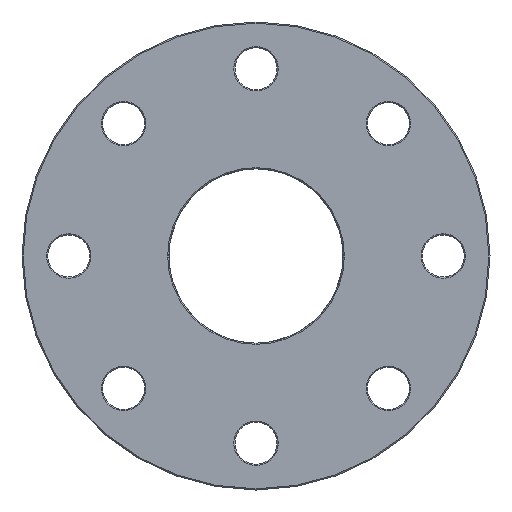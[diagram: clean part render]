
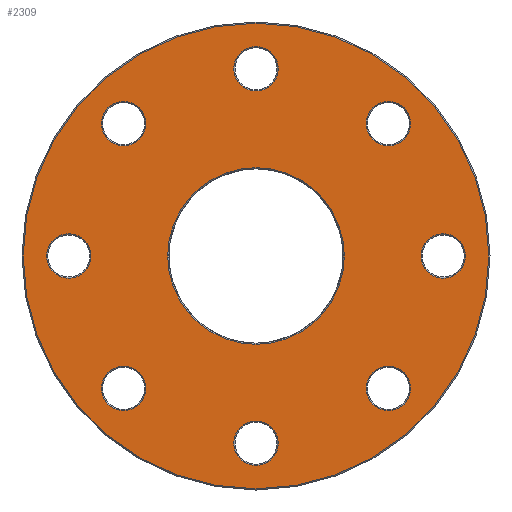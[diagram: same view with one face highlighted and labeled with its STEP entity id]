
A CAD part, front view. The second image highlights one B-rep face of the part: STEP entity #2309.
In plain terms, the highlighted planar face has unit normal (0, -1, 0).
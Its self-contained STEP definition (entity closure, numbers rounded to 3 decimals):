
#670=CARTESIAN_POINT('',(56.569,-2.192,56.569));
#671=DIRECTION('',(0.,1.,0.));
#672=DIRECTION('',(0.,0.,-1.));
#673=AXIS2_PLACEMENT_3D('',#670,#671,#672);
#678=CARTESIAN_POINT('',(56.569,-2.192,56.569));
#679=DIRECTION('',(0.,1.,0.));
#680=DIRECTION('',(0.,0.,1.));
#681=AXIS2_PLACEMENT_3D('',#678,#679,#680);
#686=CARTESIAN_POINT('',(80.,-2.192,0.));
#687=DIRECTION('',(0.,1.,0.));
#688=DIRECTION('',(-0.707,0.,-0.707));
#689=AXIS2_PLACEMENT_3D('',#686,#687,#688);
#694=CARTESIAN_POINT('',(80.,-2.192,0.));
#695=DIRECTION('',(0.,1.,0.));
#696=DIRECTION('',(0.707,0.,0.707));
#697=AXIS2_PLACEMENT_3D('',#694,#695,#696);
#702=CARTESIAN_POINT('',(56.569,-2.192,-56.569));
#703=DIRECTION('',(0.,1.,0.));
#704=DIRECTION('',(1.,0.,0.));
#705=AXIS2_PLACEMENT_3D('',#702,#703,#704);
#710=CARTESIAN_POINT('',(56.569,-2.192,-56.569));
#711=DIRECTION('',(0.,1.,0.));
#712=DIRECTION('',(-1.,0.,0.));
#713=AXIS2_PLACEMENT_3D('',#710,#711,#712);
#718=CARTESIAN_POINT('',(0.,-2.192,-80.));
#719=DIRECTION('',(0.,1.,0.));
#720=DIRECTION('',(0.707,0.,-0.707));
#721=AXIS2_PLACEMENT_3D('',#718,#719,#720);
#726=CARTESIAN_POINT('',(0.,-2.192,-80.));
#727=DIRECTION('',(0.,1.,0.));
#728=DIRECTION('',(-0.707,0.,0.707));
#729=AXIS2_PLACEMENT_3D('',#726,#727,#728);
#734=CARTESIAN_POINT('',(-56.569,-2.192,-56.569));
#735=DIRECTION('',(0.,1.,0.));
#736=DIRECTION('',(0.,0.,-1.));
#737=AXIS2_PLACEMENT_3D('',#734,#735,#736);
#742=CARTESIAN_POINT('',(-56.569,-2.192,-56.569));
#743=DIRECTION('',(0.,1.,0.));
#744=DIRECTION('',(0.,0.,1.));
#745=AXIS2_PLACEMENT_3D('',#742,#743,#744);
#750=CARTESIAN_POINT('',(-80.,-2.192,0.));
#751=DIRECTION('',(0.,1.,0.));
#752=DIRECTION('',(0.707,0.,0.707));
#753=AXIS2_PLACEMENT_3D('',#750,#751,#752);
#758=CARTESIAN_POINT('',(-80.,-2.192,0.));
#759=DIRECTION('',(0.,1.,0.));
#760=DIRECTION('',(-0.707,0.,-0.707));
#761=AXIS2_PLACEMENT_3D('',#758,#759,#760);
#766=CARTESIAN_POINT('',(-56.569,-2.192,56.569));
#767=DIRECTION('',(0.,1.,0.));
#768=DIRECTION('',(1.,0.,0.));
#769=AXIS2_PLACEMENT_3D('',#766,#767,#768);
#774=CARTESIAN_POINT('',(-56.569,-2.192,56.569));
#775=DIRECTION('',(0.,1.,0.));
#776=DIRECTION('',(-1.,0.,0.));
#777=AXIS2_PLACEMENT_3D('',#774,#775,#776);
#782=CARTESIAN_POINT('',(0.,-2.192,80.));
#783=DIRECTION('',(0.,1.,0.));
#784=DIRECTION('',(0.707,0.,-0.707));
#785=AXIS2_PLACEMENT_3D('',#782,#783,#784);
#790=CARTESIAN_POINT('',(0.,-2.192,80.));
#791=DIRECTION('',(0.,1.,0.));
#792=DIRECTION('',(-0.707,0.,0.707));
#793=AXIS2_PLACEMENT_3D('',#790,#791,#792);
#798=CARTESIAN_POINT('',(0.,-2.192,0.));
#799=DIRECTION('',(0.,-1.,0.));
#800=DIRECTION('',(-1.,0.,0.));
#801=AXIS2_PLACEMENT_3D('',#798,#799,#800);
#806=CARTESIAN_POINT('',(0.,-2.192,0.));
#807=DIRECTION('',(0.,-1.,0.));
#808=DIRECTION('',(1.,0.,0.));
#809=AXIS2_PLACEMENT_3D('',#806,#807,#808);
#814=CARTESIAN_POINT('',(0.,-2.192,0.));
#815=DIRECTION('',(0.,1.,0.));
#816=DIRECTION('',(-1.,0.,0.));
#817=AXIS2_PLACEMENT_3D('',#814,#815,#816);
#822=CARTESIAN_POINT('',(0.,-2.192,0.));
#823=DIRECTION('',(0.,1.,0.));
#824=DIRECTION('',(1.,0.,0.));
#825=AXIS2_PLACEMENT_3D('',#822,#823,#824);
#1673=CARTESIAN_POINT('',(56.569,-2.192,47.069));
#1674=CARTESIAN_POINT('',(56.569,-2.192,66.069));
#1675=VERTEX_POINT('',#1673);
#1676=VERTEX_POINT('',#1674);
#1681=CARTESIAN_POINT('',(73.282,-2.192,-6.718));
#1682=CARTESIAN_POINT('',(86.718,-2.192,6.718));
#1683=VERTEX_POINT('',#1681);
#1684=VERTEX_POINT('',#1682);
#1689=CARTESIAN_POINT('',(66.069,-2.192,-56.569));
#1690=CARTESIAN_POINT('',(47.069,-2.192,-56.569));
#1691=VERTEX_POINT('',#1689);
#1692=VERTEX_POINT('',#1690);
#1697=CARTESIAN_POINT('',(6.718,-2.192,-86.718));
#1698=CARTESIAN_POINT('',(-6.718,-2.192,-73.282));
#1699=VERTEX_POINT('',#1697);
#1700=VERTEX_POINT('',#1698);
#1705=CARTESIAN_POINT('',(-56.569,-2.192,-66.069));
#1706=CARTESIAN_POINT('',(-56.569,-2.192,-47.069));
#1707=VERTEX_POINT('',#1705);
#1708=VERTEX_POINT('',#1706);
#1713=CARTESIAN_POINT('',(-73.282,-2.192,6.718));
#1714=CARTESIAN_POINT('',(-86.718,-2.192,-6.718));
#1715=VERTEX_POINT('',#1713);
#1716=VERTEX_POINT('',#1714);
#1721=CARTESIAN_POINT('',(-47.069,-2.192,56.569));
#1722=CARTESIAN_POINT('',(-66.069,-2.192,56.569));
#1723=VERTEX_POINT('',#1721);
#1724=VERTEX_POINT('',#1722);
#1729=CARTESIAN_POINT('',(6.718,-2.192,73.282));
#1730=CARTESIAN_POINT('',(-6.718,-2.192,86.718));
#1731=VERTEX_POINT('',#1729);
#1732=VERTEX_POINT('',#1730);
#1745=CARTESIAN_POINT('',(-99.5,-2.192,0.));
#1746=CARTESIAN_POINT('',(99.5,-2.192,0.));
#1747=VERTEX_POINT('',#1745);
#1748=VERTEX_POINT('',#1746);
#1757=CARTESIAN_POINT('',(-37.736,-2.192,0.));
#1758=CARTESIAN_POINT('',(37.736,-2.192,0.));
#1759=VERTEX_POINT('',#1757);
#1760=VERTEX_POINT('',#1758);
#2245=CARTESIAN_POINT('',(0.,-2.192,0.));
#2246=DIRECTION('',(0.,1.,0.));
#2247=DIRECTION('',(-1.,0.,0.));
#2248=AXIS2_PLACEMENT_3D('',#2245,#2246,#2247);
#2249=PLANE('',#2248);
#2251=ORIENTED_EDGE('',*,*,#2250,.F.);
#2253=ORIENTED_EDGE('',*,*,#2252,.F.);
#2254=EDGE_LOOP('',(#2251,#2253));
#2255=FACE_OUTER_BOUND('',#2254,.F.);
#2257=ORIENTED_EDGE('',*,*,#2256,.F.);
#2259=ORIENTED_EDGE('',*,*,#2258,.F.);
#2260=EDGE_LOOP('',(#2257,#2259));
#2261=FACE_BOUND('',#2260,.F.);
#2263=ORIENTED_EDGE('',*,*,#2262,.F.);
#2265=ORIENTED_EDGE('',*,*,#2264,.F.);
#2266=EDGE_LOOP('',(#2263,#2265));
#2267=FACE_BOUND('',#2266,.F.);
#2269=ORIENTED_EDGE('',*,*,#2268,.F.);
#2271=ORIENTED_EDGE('',*,*,#2270,.F.);
#2272=EDGE_LOOP('',(#2269,#2271));
#2273=FACE_BOUND('',#2272,.F.);
#2275=ORIENTED_EDGE('',*,*,#2274,.F.);
#2277=ORIENTED_EDGE('',*,*,#2276,.F.);
#2278=EDGE_LOOP('',(#2275,#2277));
#2279=FACE_BOUND('',#2278,.F.);
#2281=ORIENTED_EDGE('',*,*,#2280,.F.);
#2283=ORIENTED_EDGE('',*,*,#2282,.F.);
#2284=EDGE_LOOP('',(#2281,#2283));
#2285=FACE_BOUND('',#2284,.F.);
#2287=ORIENTED_EDGE('',*,*,#2286,.F.);
#2289=ORIENTED_EDGE('',*,*,#2288,.F.);
#2290=EDGE_LOOP('',(#2287,#2289));
#2291=FACE_BOUND('',#2290,.F.);
#2293=ORIENTED_EDGE('',*,*,#2292,.F.);
#2295=ORIENTED_EDGE('',*,*,#2294,.F.);
#2296=EDGE_LOOP('',(#2293,#2295));
#2297=FACE_BOUND('',#2296,.F.);
#2299=ORIENTED_EDGE('',*,*,#2298,.F.);
#2301=ORIENTED_EDGE('',*,*,#2300,.F.);
#2302=EDGE_LOOP('',(#2299,#2301));
#2303=FACE_BOUND('',#2302,.F.);
#2304=ORIENTED_EDGE('',*,*,#2235,.F.);
#2306=ORIENTED_EDGE('',*,*,#2305,.F.);
#2307=EDGE_LOOP('',(#2304,#2306));
#2308=FACE_BOUND('',#2307,.F.);
#674=CIRCLE('',#673,9.5);
#682=CIRCLE('',#681,9.5);
#690=CIRCLE('',#689,9.5);
#698=CIRCLE('',#697,9.5);
#706=CIRCLE('',#705,9.5);
#714=CIRCLE('',#713,9.5);
#722=CIRCLE('',#721,9.5);
#730=CIRCLE('',#729,9.5);
#738=CIRCLE('',#737,9.5);
#746=CIRCLE('',#745,9.5);
#754=CIRCLE('',#753,9.5);
#762=CIRCLE('',#761,9.5);
#770=CIRCLE('',#769,9.5);
#778=CIRCLE('',#777,9.5);
#786=CIRCLE('',#785,9.5);
#794=CIRCLE('',#793,9.5);
#802=CIRCLE('',#801,99.5);
#810=CIRCLE('',#809,99.5);
#818=CIRCLE('',#817,37.736);
#826=CIRCLE('',#825,37.736);
#2235=EDGE_CURVE('',#1759,#1760,#818,.T.);
#2250=EDGE_CURVE('',#1747,#1748,#802,.T.);
#2252=EDGE_CURVE('',#1748,#1747,#810,.T.);
#2256=EDGE_CURVE('',#1683,#1684,#690,.T.);
#2258=EDGE_CURVE('',#1684,#1683,#698,.T.);
#2262=EDGE_CURVE('',#1691,#1692,#706,.T.);
#2264=EDGE_CURVE('',#1692,#1691,#714,.T.);
#2268=EDGE_CURVE('',#1699,#1700,#722,.T.);
#2270=EDGE_CURVE('',#1700,#1699,#730,.T.);
#2274=EDGE_CURVE('',#1707,#1708,#738,.T.);
#2276=EDGE_CURVE('',#1708,#1707,#746,.T.);
#2280=EDGE_CURVE('',#1715,#1716,#754,.T.);
#2282=EDGE_CURVE('',#1716,#1715,#762,.T.);
#2286=EDGE_CURVE('',#1723,#1724,#770,.T.);
#2288=EDGE_CURVE('',#1724,#1723,#778,.T.);
#2292=EDGE_CURVE('',#1731,#1732,#786,.T.);
#2294=EDGE_CURVE('',#1732,#1731,#794,.T.);
#2298=EDGE_CURVE('',#1675,#1676,#674,.T.);
#2300=EDGE_CURVE('',#1676,#1675,#682,.T.);
#2305=EDGE_CURVE('',#1760,#1759,#826,.T.);
#2309=ADVANCED_FACE('',(#2255,#2261,#2267,#2273,#2279,#2285,#2291,#2297,#2303,
#2308),#2249,.F.);
